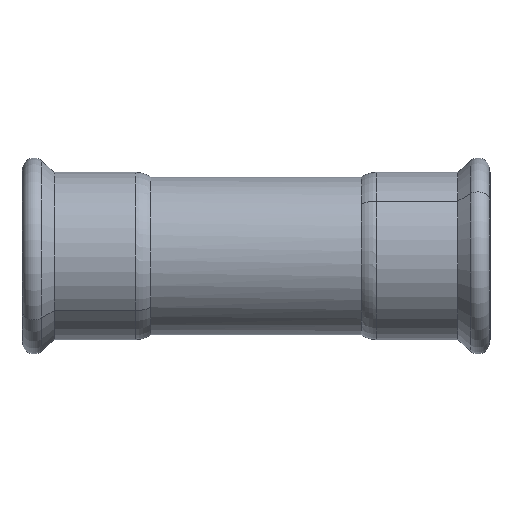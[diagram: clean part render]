
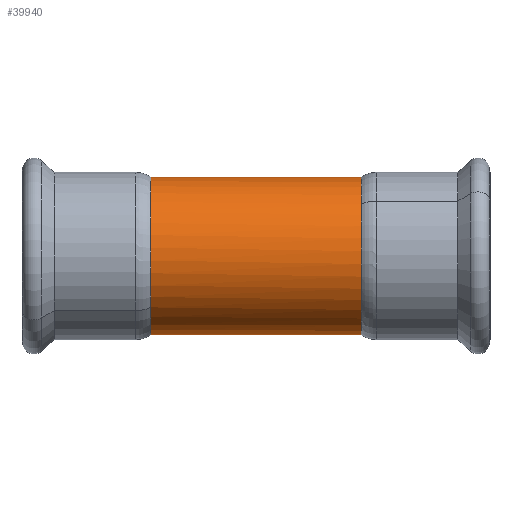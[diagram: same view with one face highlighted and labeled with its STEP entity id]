
A CAD part, top view. The second image highlights one B-rep face of the part: STEP entity #39940.
In plain terms, the highlighted cylindrical face has radius 33.35 mm (diameter 66.7 mm), a partial arc.
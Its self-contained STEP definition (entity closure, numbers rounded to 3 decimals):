
#27810=CARTESIAN_POINT('',(3.4,0.,0.));
#27820=DIRECTION('',(1.,0.,0.));
#27830=DIRECTION('',(0.,-0.654,
-0.757));
#27840=AXIS2_PLACEMENT_3D('',#27810,#27820,#27830);
#27850=CIRCLE('',#27840,33.35);
#27860=CARTESIAN_POINT('',(3.4,-33.35,0.)
);
#27870=VERTEX_POINT('',#27860);
#27900=CARTESIAN_POINT('',(3.4,21.804,
25.235));
#27910=VERTEX_POINT('',#27900);
#27920=EDGE_CURVE('',#27910,#27870,#27850,.T.);
#33750=CARTESIAN_POINT('',(-85.6,0.,0.));
#33760=DIRECTION('',(-1.,0.,0.));
#33770=DIRECTION('',(0.,0.654,
-0.757));
#33780=AXIS2_PLACEMENT_3D('',#33750,#33760,#33770);
#33790=CIRCLE('',#33780,33.35);
#33800=CARTESIAN_POINT('',(-85.6,33.35,0.));
#33810=VERTEX_POINT('',#33800);
#33840=CARTESIAN_POINT('',(-85.6,-21.804,25.235));
#33850=VERTEX_POINT('',#33840);
#33860=EDGE_CURVE('',#33850,#33810,#33790,.T.);
#39190=CARTESIAN_POINT('',(-85.6,-33.35,0.));
#39200=VERTEX_POINT('',#39190);
#39210=EDGE_CURVE('',#39200,#33850,#33790,.T.);
#39620=CARTESIAN_POINT('',(3.4,33.35,0.));
#39630=VERTEX_POINT('',#39620);
#39640=EDGE_CURVE('',#39630,#27910,#27850,.T.);
#39710=CARTESIAN_POINT('',(5.,0.,0.));
#39720=DIRECTION('',(1.,0.,0.));
#39730=DIRECTION('',(0.,1.,0.));
#39740=AXIS2_PLACEMENT_3D('',#39710,#39720,#39730);
#39750=CYLINDRICAL_SURFACE('',#39740,33.35);
#39760=CARTESIAN_POINT('',(5.,33.35,0.));
#39770=DIRECTION('',(1.,0.,0.));
#39780=VECTOR('',#39770,1.);
#39790=LINE('',#39760,#39780);
#39800=EDGE_CURVE('',#33810,#39630,#39790,.T.);
#39810=ORIENTED_EDGE('',*,*,#39800,.F.);
#39820=ORIENTED_EDGE('',*,*,#39640,.F.);
#39830=ORIENTED_EDGE('',*,*,#27920,.F.);
#39840=CARTESIAN_POINT('',(5.,-33.35,0.));
#39850=DIRECTION('',(1.,0.,0.));
#39860=VECTOR('',#39850,1.);
#39870=LINE('',#39840,#39860);
#39880=EDGE_CURVE('',#39200,#27870,#39870,.T.);
#39890=ORIENTED_EDGE('',*,*,#39880,.T.);
#39900=ORIENTED_EDGE('',*,*,#39210,.F.);
#39910=ORIENTED_EDGE('',*,*,#33860,.F.);
#39920=EDGE_LOOP('',(#39910,#39900,#39890,#39830,#39820,#39810));
#39930=FACE_OUTER_BOUND('',#39920,.T.);
#39940=ADVANCED_FACE('',(#39930),#39750,.T.);
